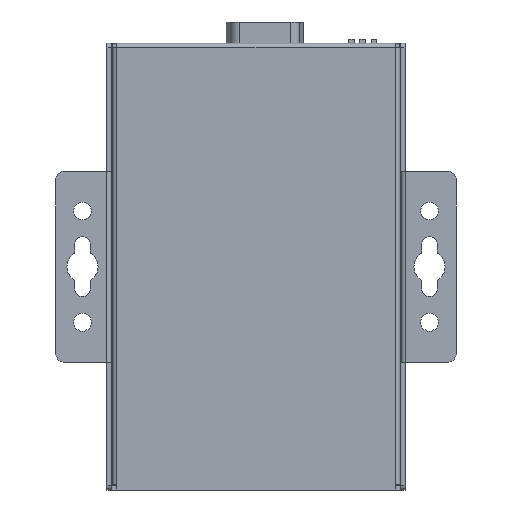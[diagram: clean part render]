
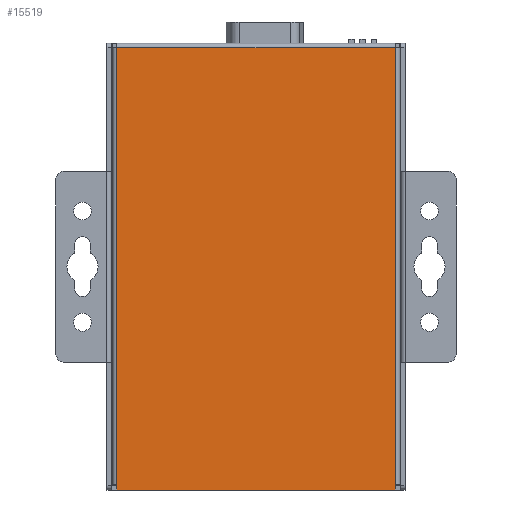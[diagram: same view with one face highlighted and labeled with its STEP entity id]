
A CAD part, front view. The second image highlights one B-rep face of the part: STEP entity #15519.
In plain terms, the highlighted planar face has unit normal (0, -1, 0).
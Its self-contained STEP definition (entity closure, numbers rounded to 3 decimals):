
#1183=DIRECTION('',(0.,0.,-1.));
#1184=VECTOR('',#1183,1.15);
#1185=CARTESIAN_POINT('',(31.35,2.,-48.55));
#1186=LINE('',#1185,#1184);
#5359=DIRECTION('',(1.,0.,0.));
#5360=VECTOR('',#5359,62.7);
#5361=CARTESIAN_POINT('',(-31.35,2.,49.7));
#5362=LINE('',#5361,#5360);
#5622=DIRECTION('',(0.,0.,-1.));
#5623=VECTOR('',#5622,98.25);
#5624=CARTESIAN_POINT('',(31.35,2.,49.7));
#5625=LINE('',#5624,#5623);
#5626=DIRECTION('',(1.,0.,0.));
#5627=VECTOR('',#5626,62.7);
#5628=CARTESIAN_POINT('',(-31.35,2.,-49.7));
#5629=LINE('',#5628,#5627);
#5630=DIRECTION('',(0.,0.,-1.));
#5631=VECTOR('',#5630,1.15);
#5632=CARTESIAN_POINT('',(-31.35,2.,-48.55));
#5633=LINE('',#5632,#5631);
#5679=DIRECTION('',(0.,0.,1.));
#5680=VECTOR('',#5679,98.25);
#5681=CARTESIAN_POINT('',(-31.35,2.,-48.55));
#5682=LINE('',#5681,#5680);
#6715=CARTESIAN_POINT('',(-31.35,2.,49.7));
#6716=VERTEX_POINT('',#6715);
#6737=CARTESIAN_POINT('',(31.35,2.,-48.55));
#6738=VERTEX_POINT('',#6737);
#6739=CARTESIAN_POINT('',(31.35,2.,49.7));
#6740=VERTEX_POINT('',#6739);
#6763=CARTESIAN_POINT('',(31.35,2.,-49.7));
#6764=VERTEX_POINT('',#6763);
#6787=CARTESIAN_POINT('',(-31.35,2.,-48.55));
#6788=VERTEX_POINT('',#6787);
#6795=CARTESIAN_POINT('',(-31.35,2.,-49.7));
#6796=VERTEX_POINT('',#6795);
#15504=CARTESIAN_POINT('',(0.,2.,0.5));
#15505=DIRECTION('',(0.,1.,0.));
#15506=DIRECTION('',(-1.,0.,0.));
#15507=AXIS2_PLACEMENT_3D('',#15504,#15505,#15506);
#15508=PLANE('',#15507);
#15509=ORIENTED_EDGE('',*,*,#15498,.T.);
#15510=ORIENTED_EDGE('',*,*,#9231,.T.);
#15511=ORIENTED_EDGE('',*,*,#8021,.F.);
#15513=ORIENTED_EDGE('',*,*,#15512,.F.);
#15515=ORIENTED_EDGE('',*,*,#15514,.T.);
#15516=ORIENTED_EDGE('',*,*,#15186,.T.);
#15517=EDGE_LOOP('',(#15509,#15510,#15511,#15513,#15515,#15516));
#15518=FACE_OUTER_BOUND('',#15517,.F.);
#15519=ADVANCED_FACE('',(#15518),#15508,.F.);
#8021=EDGE_CURVE('',#6796,#6764,#5629,.T.);
#9231=EDGE_CURVE('',#6738,#6764,#1186,.T.);
#15186=EDGE_CURVE('',#6716,#6740,#5362,.T.);
#15498=EDGE_CURVE('',#6740,#6738,#5625,.T.);
#15512=EDGE_CURVE('',#6788,#6796,#5633,.T.);
#15514=EDGE_CURVE('',#6788,#6716,#5682,.T.);
